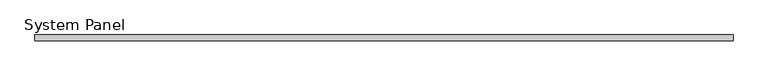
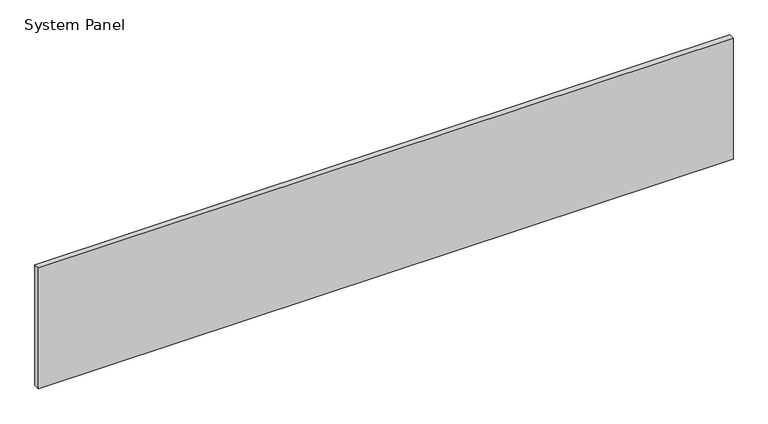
"""IFC4 building model written with IfcOpenShell, lengths in millimetres: plate geometry, System Panel : Inspire 50mm Horizontal - Plain RHEA-PIR."""

from ifc_helpers import new_model, si_unit, origin, origin_with_axes, place, context, project, spatial, polyline, outline, extrude, source, transform, mapped, element, save


def system_panel_70361756(model_context):
    return source(origin(), model_context, "Body", "SweptSolid", [
        extrude(outline(polyline([(2990.0, -50.0), (-2990.0, -50.0), (-2990.0, 0.0), (2990.0, 0.0), (2990.0, -50.0)])), origin_with_axes(), (0.0, 0.0, 1.0), 1100.0),
    ])


if __name__ == "__main__":
    model = new_model("IFC4")
    model_context = context("Model", 3, world=origin())
    ifc_project = project(units=[si_unit("LENGTHUNIT", "METRE", prefix="MILLI")], contexts=[model_context])
    site = spatial("IfcSite", under=ifc_project)
    building = spatial("IfcBuilding", under=site)
    placement = place(None, origin())
    system_panel_shape = system_panel_70361756(model_context)
    element("IfcPlate", 1, ObjectType="System Panel : Inspire 50mm Horizontal - Plain RHEA-PIR", at=placement, inside=building, context=model_context, shape_type="MappedRepresentation", body=[
        mapped(system_panel_shape, transform((0.0, 0.0, 0.0), x_axis=(1.0, 0.0, 0.0), y_axis=(0.0, 1.0, 0.0), z_axis=(0.0, 0.0, 1.0))),
    ])
    save(model, "model.ifc")
